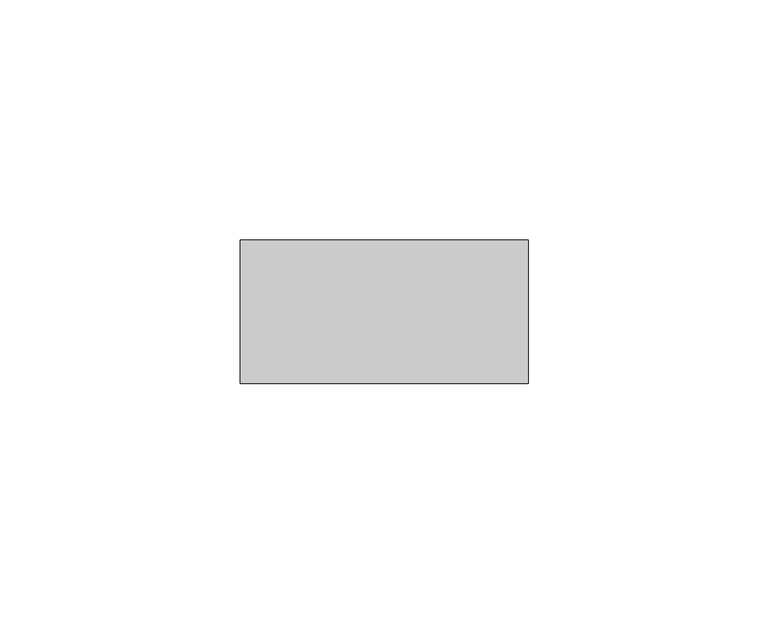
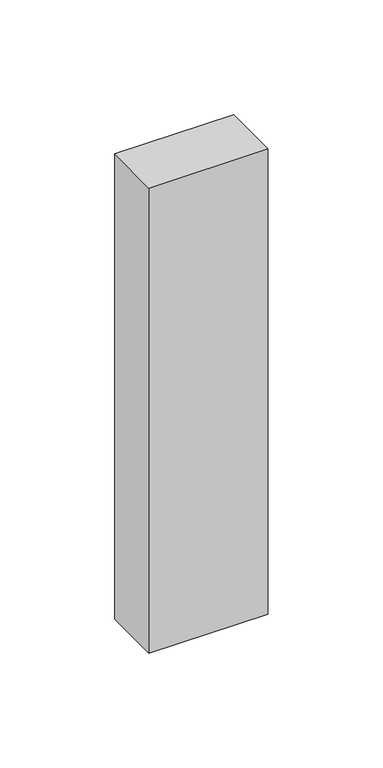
"""IFC4 building model written with IfcOpenShell, lengths in millimetres: member geometry, Прямоугольный импост : Квадрат 30 мм."""

import ifcopenshell
import ifcopenshell.guid

model = None  # the IFC model being written
_history = None  # IfcOwnerHistory: only IFC2X3 demands one
_inside = {}  # id of a spatial element -> (the spatial element, [elements in it])
_under = {}  # id of a project, library or spatial element -> (it, [spatial elements below it])
_declared = {}  # id of a project -> (the project, [libraries it declares])
_typed = {}  # id of a type object -> (the type object, [elements of that type])
_made_of = {}  # id of a material, layer set ... -> (it, [elements and type objects made of it])


def new_model(schema):
    """Start an empty IFC model of exactly this schema.

    Asked for "IFC4X3", IfcOpenShell would pick the latest addendum, in which some entities
    have other attributes; the version numbers below select the first issue.
    IFC2X3 requires an IfcOwnerHistory on every rooted entity: one is made here for all.
    """
    global model, _history
    if schema == "IFC4X3":
        model = ifcopenshell.file(schema_version=(4, 3, 0, 0))
    else:
        model = ifcopenshell.file(schema=schema)
    _inside.clear()
    _under.clear()
    _declared.clear()
    _typed.clear()
    _made_of.clear()
    _history = None
    if model.schema == "IFC2X3":
        org = make("IfcOrganization", Name="unknown")
        user = make(
            "IfcPersonAndOrganization",
            ThePerson=make("IfcPerson", FamilyName="unknown"),
            TheOrganization=org,
        )
        app = make(
            "IfcApplication",
            ApplicationDeveloper=org,
            Version="unknown",
            ApplicationFullName="unknown",
            ApplicationIdentifier="unknown",
        )
        _history = make(
            "IfcOwnerHistory",
            OwningUser=user,
            OwningApplication=app,
            ChangeAction="ADDED",
            CreationDate=0,
        )
    return model


def make(cls, **values):
    """One entity of the class cls with the attributes given. An attribute that is None is left unset."""
    return model.create_entity(
        cls, **{name: value for name, value in values.items() if value is not None}
    )


def rooted(cls, **values):
    """An entity with a GlobalId (a new one), such as an element, a storey or a relation."""
    return make(cls, GlobalId=ifcopenshell.guid.new(), OwnerHistory=_history, **values)


def si_unit(unit_type, name, prefix=None):
    """IfcSIUnit, for example si_unit("LENGTHUNIT", "METRE", prefix="MILLI")."""
    return make("IfcSIUnit", UnitType=unit_type, Prefix=prefix, Name=name)


def assignment(units):
    """IfcUnitAssignment: the units of a project."""
    return None if units is None else make("IfcUnitAssignment", Units=units)


def point(xyz):
    """IfcCartesianPoint."""
    return None if xyz is None else make("IfcCartesianPoint", Coordinates=xyz)


def direction(xyz):
    """IfcDirection."""
    return None if xyz is None else make("IfcDirection", DirectionRatios=xyz)


def frame(location, z_axis=None, x_axis=None):
    """IfcAxis2Placement3D, a coordinate frame: its origin and axes. An axis left out is left unset."""
    return make(
        "IfcAxis2Placement3D",
        Location=point(location),
        Axis=direction(z_axis),
        RefDirection=direction(x_axis),
    )


def origin():
    """The frame at (0, 0, 0) with its axes left unset."""
    return frame((0.0, 0.0, 0.0))


def place(relative_to, where):
    """IfcLocalPlacement: puts the frame where relative to a parent placement (None: the world)."""
    return make(
        "IfcLocalPlacement", PlacementRelTo=relative_to, RelativePlacement=where
    )


def context(
    kind, dimensions, precision=None, world=None, true_north=None, identifier=None
):
    """IfcGeometricRepresentationContext, for example the 3D "Model" context."""
    return make(
        "IfcGeometricRepresentationContext",
        ContextIdentifier=identifier,
        ContextType=kind,
        CoordinateSpaceDimension=dimensions,
        Precision=precision,
        WorldCoordinateSystem=world,
        TrueNorth=true_north,
    )


def project(units=None, contexts=None):
    """IfcProject with its units and contexts."""
    return rooted(
        "IfcProject",
        Name="project",
        RepresentationContexts=contexts,
        UnitsInContext=assignment(units),
    )


def spatial(cls, under=None, at=None, **own):
    """A site, building, storey or space (cls), placed at a placement, below another one or the project."""
    s = rooted(cls, ObjectPlacement=at, **own)
    if under is not None:
        _under.setdefault(under.id(), (under, []))[1].append(s)
    return s


def polyline(points):
    """IfcPolyline through the points."""
    return make("IfcPolyline", Points=[point(p) for p in points])


def outline(outer, holes=None, kind="AREA"):
    """IfcArbitraryClosedProfileDef: a profile drawn as a closed curve; with holes, ...WithVoids."""
    if holes is None:
        return make("IfcArbitraryClosedProfileDef", ProfileType=kind, OuterCurve=outer)
    return make(
        "IfcArbitraryProfileDefWithVoids",
        ProfileType=kind,
        OuterCurve=outer,
        InnerCurves=holes,
    )


def extrude(swept, where, along, depth):
    """IfcExtrudedAreaSolid: the profile swept, set in the frame where, extruded along a direction by depth."""
    return make(
        "IfcExtrudedAreaSolid",
        SweptArea=swept,
        Position=where,
        ExtrudedDirection=direction(along),
        Depth=depth,
    )


def shape(context_of_items, identifier, shape_type, items):
    """IfcShapeRepresentation: the items that make up one representation, for example the "Body"."""
    return make(
        "IfcShapeRepresentation",
        ContextOfItems=context_of_items,
        RepresentationIdentifier=identifier,
        RepresentationType=shape_type,
        Items=items,
    )


def source(mapping_origin, context_of_items, identifier, shape_type, items):
    """IfcRepresentationMap: a shape defined once, which mapped items show again and again."""
    return make(
        "IfcRepresentationMap",
        MappingOrigin=mapping_origin,
        MappedRepresentation=shape(context_of_items, identifier, shape_type, items),
    )


def transform(
    local_origin,
    x_axis=None,
    y_axis=None,
    z_axis=None,
    scale=None,
    scale2=None,
    scale3=None,
    uniform=True,
):
    """IfcCartesianTransformationOperator3D, or its non-uniform kind. x_axis, y_axis, z_axis: its Axis1, 2, 3."""
    if uniform:
        return make(
            "IfcCartesianTransformationOperator3D",
            Axis1=direction(x_axis),
            Axis2=direction(y_axis),
            LocalOrigin=point(local_origin),
            Scale=scale,
            Axis3=direction(z_axis),
        )
    return make(
        "IfcCartesianTransformationOperator3DnonUniform",
        Axis1=direction(x_axis),
        Axis2=direction(y_axis),
        LocalOrigin=point(local_origin),
        Scale=scale,
        Axis3=direction(z_axis),
        Scale2=scale2,
        Scale3=scale3,
    )


def mapped(mapping_source, mapping_target):
    """IfcMappedItem: shows the shape of a source again, moved by a transform."""
    return make(
        "IfcMappedItem", MappingSource=mapping_source, MappingTarget=mapping_target
    )


def made_of(thing, what):
    """Note that an element or type object is made of a material, layer set ...; save() writes the relation."""
    if what is not None:
        _made_of.setdefault(what.id(), (what, []))[1].append(thing)
    return thing


def element(
    cls,
    number,
    at=None,
    inside=None,
    cuts=None,
    type_object=None,
    material=None,
    context=None,
    identifier="Body",
    shape_type=None,
    held_by="IfcProductDefinitionShape",
    body=None,
    shapes=None,
    **own,
):
    """One element of the class cls, such as IfcWall. Its Tag is "e" and its number.

    at: its placement. inside: the storey or other place that contains it. cuts: it is an
    opening in that element (IfcRelVoidsElement). A single representation is given by context,
    identifier, shape_type and body (its items); several are given by shapes. held_by: the class
    of the entity that holds the representations. save() writes the other relations.
    """
    e = rooted(cls, Tag="e%d" % number, ObjectPlacement=at, **own)
    if body is not None:
        shapes = [shape(context, identifier, shape_type, body)]
    if shapes is not None:
        e.Representation = make(held_by, Representations=shapes)
    if inside is not None:
        _inside.setdefault(inside.id(), (inside, []))[1].append(e)
    if cuts is not None:
        rooted(
            "IfcRelVoidsElement", RelatingBuildingElement=cuts, RelatedOpeningElement=e
        )
    if type_object is not None:
        _typed.setdefault(type_object.id(), (type_object, []))[1].append(e)
    return made_of(e, material)


def aggregate(whole, parts):
    """IfcRelAggregates: a whole, such as a stair, and the parts it consists of."""
    return rooted("IfcRelAggregates", RelatingObject=whole, RelatedObjects=parts)


def save(model, path):
    """Write the relations noted so far, then the file.

    IfcRelAggregates (storeys below a building ...), IfcRelContainedInSpatialStructure (elements
    in a storey), IfcRelDefinesByType, IfcRelAssociatesMaterial and IfcRelDeclares: one each for
    every whole, place, type object, material and project.
    """
    for whole, parts in _under.values():
        aggregate(whole, parts)
    for where, things in _inside.values():
        rooted(
            "IfcRelContainedInSpatialStructure",
            RelatedElements=things,
            RelatingStructure=where,
        )
    for kind, things in _typed.values():
        rooted("IfcRelDefinesByType", RelatedObjects=things, RelatingType=kind)
    for what, things in _made_of.values():
        rooted("IfcRelAssociatesMaterial", RelatedObjects=things, RelatingMaterial=what)
    for by, libraries in _declared.values():
        rooted("IfcRelDeclares", RelatingContext=by, RelatedDefinitions=libraries)
    model.write(path)


def member_37f612b0(model_context):
    return source(origin(), model_context, "Body", "SweptSolid", [
        extrude(outline(polyline([(30.0, 15.0), (30.0, -15.0), (-30.0, -15.0), (-30.0, 15.0), (30.0, 15.0)])), frame((0.0, 0.0, -247.95), z_axis=(0.0, 0.0, 1.0), x_axis=(1.0, 0.0, 0.0)), (0.0, 0.0, 1.0), 247.95),
    ])


if __name__ == "__main__":
    model = new_model("IFC4")
    model_context = context("Model", 3, world=origin())
    ifc_project = project(units=[si_unit("LENGTHUNIT", "METRE", prefix="MILLI")], contexts=[model_context])
    site = spatial("IfcSite", under=ifc_project)
    building = spatial("IfcBuilding", under=site)
    placement = place(None, origin())
    member_shape = member_37f612b0(model_context)
    element("IfcMember", 1, ObjectType="Прямоугольный импост : Квадрат 30 мм", at=placement, inside=building, context=model_context, shape_type="MappedRepresentation", body=[
        mapped(member_shape, transform((0.0, 0.0, 0.0), x_axis=(1.0, 0.0, 0.0), y_axis=(0.0, 1.0, 0.0), z_axis=(0.0, 0.0, 1.0))),
    ])
    save(model, "model.ifc")
